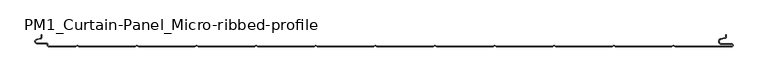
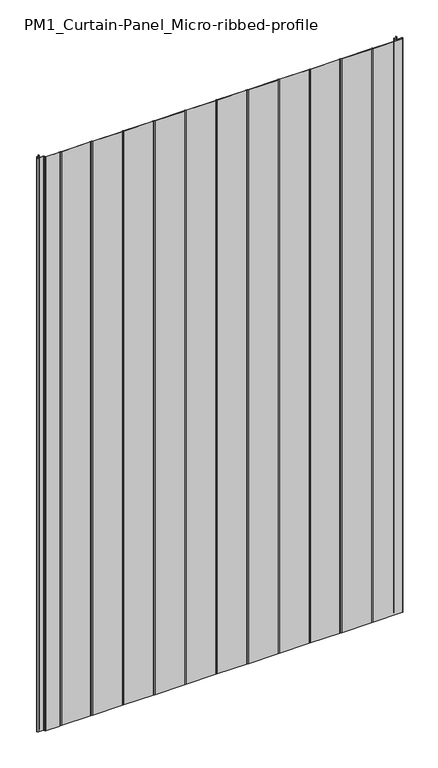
"""IFC4 building model written with IfcOpenShell, lengths in millimetres: plate geometry, PM1_Curtain-Panel_Micro-ribbed-profile : ACH_PM1_Acoustic-Sectioning-Panel_80M."""

from ifc_helpers import new_model, si_unit, frame, origin, place, context, project, spatial, polyline, circle_curve, source, transform, mapped, element, save
from ifc_brep_helpers import plane_surface, cylinder_surface, revolved_surface, advanced_brep


def pm1_curtain_panel_micro_ribbed_profile_46b46948(model_context):
    return source(origin(), model_context, "Body", "AdvancedBrep", [
        advanced_brep(
        [(-575.0, -64.121443, 1945.7507136), (-576.5500978, -66.0701831, 1945.7507136), (-582.7098239, -67.492268, 1945.7507136), (-581.9, -74.6, 1945.7507136), (-566.4, -74.6, 1945.7507136), (-564.4, -76.6, 1945.7507136), (-564.4, -78.0, 1945.7507136), (-562.4, -80.0, 1945.7507136), (-517.0999995, -80.0, 1945.7507136), (-514.4, -78.4411545, 1945.7507136), (-511.7000005, -80.0, 1945.7507136), (-417.0999995, -80.0, 1945.7507136), (-414.4, -78.4411545, 1945.7507136), (-411.7000005, -80.0, 1945.7507136), (-317.0999995, -80.0, 1945.7507136), (-314.4, -78.4411545, 1945.7507136), (-311.7000005, -80.0, 1945.7507136), (-217.0999995, -80.0, 1945.7507136), (-214.4, -78.4411545, 1945.7507136), (-211.7000005, -80.0, 1945.7507136), (-117.0999995, -80.0, 1945.7507136), (-114.4, -78.4411545, 1945.7507136), (-111.7000005, -80.0, 1945.7507136), (-17.0999995, -80.0, 1945.7507136), (-14.4, -78.4411545, 1945.7507136), (-11.7000005, -80.0, 1945.7507136), (82.9000005, -80.0, 1945.7507136), (85.6, -78.4411545, 1945.7507136), (88.2999995, -80.0, 1945.7507136), (182.9000005, -80.0, 1945.7507136), (185.6, -78.4411545, 1945.7507136), (188.2999995, -80.0, 1945.7507136), (282.9000005, -80.0, 1945.7507136), (285.6, -78.4411545, 1945.7507136), (288.2999995, -80.0, 1945.7507136), (382.9000005, -80.0, 1945.7507136), (385.6, -78.4411545, 1945.7507136), (388.2999995, -80.0, 1945.7507136), (482.9000005, -80.0, 1945.7507136), (485.6, -78.4411545, 1945.7507136), (488.2999995, -80.0, 1945.7507136), (583.1, -80.0, 1945.7507136), (585.6, -77.5, 1945.7507136), (583.1, -75.0, 1945.7507136), (566.1, -75.0, 1945.7507136), (565.405407, -67.060769, 1945.7507136), (571.8514855, -65.9241509, 1945.7507136), (574.0, -63.3636508, 1945.7507136), (574.0, -60.0, 1945.7507136), (573.2, -60.0, 1945.7507136), (573.2, -63.3636508, 1945.7507136), (571.7125669, -65.1363047, 1945.7507136), (565.2664884, -66.2729228, 1945.7507136), (566.1, -75.8, 1945.7507136), (583.1, -75.8, 1945.7507136), (583.1, -79.2, 1945.7507136), (488.5143588, -79.2, 1945.7507136), (485.6, -77.517394, 1945.7507136), (482.6856412, -79.2, 1945.7507136), (388.5143588, -79.2, 1945.7507136), (385.6, -77.517394, 1945.7507136), (382.6856412, -79.2, 1945.7507136), (288.5143588, -79.2, 1945.7507136), (285.6, -77.517394, 1945.7507136), (282.6856412, -79.2, 1945.7507136), (188.5143588, -79.2, 1945.7507136), (185.6, -77.517394, 1945.7507136), (182.6856412, -79.2, 1945.7507136), (88.5143588, -79.2, 1945.7507136), (85.6, -77.517394, 1945.7507136), (82.6856412, -79.2, 1945.7507136), (-11.4856412, -79.2, 1945.7507136), (-14.4, -77.517394, 1945.7507136), (-17.3143588, -79.2, 1945.7507136), (-111.4856412, -79.2, 1945.7507136), (-114.4, -77.517394, 1945.7507136), (-117.3143588, -79.2, 1945.7507136), (-211.4856412, -79.2, 1945.7507136), (-214.4, -77.517394, 1945.7507136), (-217.3143588, -79.2, 1945.7507136), (-311.4856412, -79.2, 1945.7507136), (-314.4, -77.517394, 1945.7507136), (-317.3143588, -79.2, 1945.7507136), (-411.4856412, -79.2, 1945.7507136), (-414.4, -77.517394, 1945.7507136), (-417.3143588, -79.2, 1945.7507136), (-511.4856412, -79.2, 1945.7507136), (-514.4, -77.517394, 1945.7507136), (-517.3143588, -79.2, 1945.7507136), (-562.4, -79.2, 1945.7507136), (-563.6, -78.0, 1945.7507136), (-563.6, -76.6, 1945.7507136), (-566.4, -73.8, 1945.7507136), (-581.9, -73.8, 1945.7507136), (-582.529863, -68.2717638, 1945.7507136), (-576.370137, -66.849679, 1945.7507136), (-574.2, -64.121443, 1945.7507136), (-574.2, -60.0, 1945.7507136), (-575.0, -60.0, 1945.7507136), (-575.0, -64.121443, 0.0), (-575.0, -60.0, 0.0), (-574.2, -60.0, 0.0), (-574.2, -64.121443, 0.0), (-576.370137, -66.8496792, 0.0), (-582.529863, -68.271764, 0.0), (-581.9, -73.8, 0.0), (-566.4, -73.8, 0.0), (-563.6, -76.6, 0.0), (-563.6, -78.0, 0.0), (-562.4, -79.2, 0.0), (-517.3143588, -79.2, 0.0), (-514.4, -77.517394, 0.0), (-511.4856412, -79.2, 0.0), (-417.3143588, -79.2, 0.0), (-414.4, -77.517394, 0.0), (-411.4856412, -79.2, 0.0), (-317.3143588, -79.2, 0.0), (-314.4, -77.517394, 0.0), (-311.4856412, -79.2, 0.0), (-217.3143588, -79.2, 0.0), (-214.4, -77.517394, 0.0), (-211.4856412, -79.2, 0.0), (-117.3143588, -79.2, 0.0), (-114.4, -77.517394, 0.0), (-111.4856412, -79.2, 0.0), (-17.3143588, -79.2, 0.0), (-14.4, -77.517394, 0.0), (-11.4856412, -79.2, 0.0), (82.6856412, -79.2, 0.0), (85.6, -77.517394, 0.0), (88.5143588, -79.2, 0.0), (182.6856412, -79.2, 0.0), (185.6, -77.517394, 0.0), (188.5143588, -79.2, 0.0), (282.6856412, -79.2, 0.0), (285.6, -77.517394, 0.0), (288.5143588, -79.2, 0.0), (382.6856412, -79.2, 0.0), (385.6, -77.517394, 0.0), (388.5143588, -79.2, 0.0), (482.6856412, -79.2, 0.0), (485.6, -77.517394, 0.0), (488.5143588, -79.2, 0.0), (583.1, -79.2, 0.0), (583.1, -75.8, 0.0), (566.1, -75.8, 0.0), (565.2664884, -66.2729229, 0.0), (571.7125669, -65.1363047, 0.0), (573.2, -63.3636508, 0.0), (573.2, -60.0, 0.0), (574.0, -60.0, 0.0), (574.0, -63.3636508, 0.0), (571.8514855, -65.9241509, 0.0), (565.405407, -67.060769, 0.0), (566.1, -75.0, 0.0), (583.1, -75.0, 0.0), (585.6, -77.5, 0.0), (583.1, -80.0, 0.0), (488.2999995, -80.0, 0.0), (485.6, -78.4411545, 0.0), (482.9000005, -80.0, 0.0), (388.2999995, -80.0, 0.0), (385.6, -78.4411545, 0.0), (382.9000005, -80.0, 0.0), (288.2999995, -80.0, 0.0), (285.6, -78.4411545, 0.0), (282.9000005, -80.0, 0.0), (188.2999995, -80.0, 0.0), (185.6, -78.4411545, 0.0), (182.9000005, -80.0, 0.0), (88.2999995, -80.0, 0.0), (85.6, -78.4411545, 0.0), (82.9000005, -80.0, 0.0), (-11.7000005, -80.0, 0.0), (-14.4, -78.4411545, 0.0), (-17.0999995, -80.0, 0.0), (-111.7000005, -80.0, 0.0), (-114.4, -78.4411545, 0.0), (-117.0999995, -80.0, 0.0), (-211.7000005, -80.0, 0.0), (-214.4, -78.4411545, 0.0), (-217.0999995, -80.0, 0.0), (-311.7000005, -80.0, 0.0), (-314.4, -78.4411545, 0.0), (-317.0999995, -80.0, 0.0), (-411.7000005, -80.0, 0.0), (-414.4, -78.4411545, 0.0), (-417.0999995, -80.0, 0.0), (-511.7000005, -80.0, 0.0), (-514.4, -78.4411545, 0.0), (-517.0999995, -80.0, 0.0), (-562.4, -80.0, 0.0), (-564.4, -78.0, 0.0), (-564.4, -76.6, 0.0), (-566.4, -74.6, 0.0), (-581.9, -74.6, 0.0), (-582.7098239, -67.4922678, 0.0), (-576.5500979, -66.070183, 0.0)],
        [
            (0, 1, circle_curve(frame((-577.0, -64.121443, 1945.7507136), z_axis=(0.0, 0.0, -1.0), x_axis=(1.0, 0.0, 0.0)), 2.0)),
            (1, 2),
            (2, 3, circle_curve(frame((-581.9, -71.0, 1945.7507136), z_axis=(0.0, 0.0, 1.0), x_axis=(1.0, 0.0, 0.0)), 3.6)),
            (3, 4),
            (4, 5, circle_curve(frame((-566.4, -76.6, 1945.7507136), z_axis=(0.0, 0.0, -1.0), x_axis=(1.0, 0.0, 0.0)), 2.0)),
            (5, 6),
            (6, 7, circle_curve(frame((-562.4, -78.0, 1945.7507136), z_axis=(0.0, 0.0, 1.0), x_axis=(1.0, 0.0, 0.0)), 2.0)),
            (7, 8),
            (8, 9),
            (9, 10),
            (10, 11),
            (11, 12),
            (12, 13),
            (13, 14),
            (14, 15),
            (15, 16),
            (16, 17),
            (17, 18),
            (18, 19),
            (19, 20),
            (20, 21),
            (21, 22),
            (22, 23),
            (23, 24),
            (24, 25),
            (25, 26),
            (26, 27),
            (27, 28),
            (28, 29),
            (29, 30),
            (30, 31),
            (31, 32),
            (32, 33),
            (33, 34),
            (34, 35),
            (35, 36),
            (36, 37),
            (37, 38),
            (38, 39),
            (39, 40),
            (40, 41),
            (41, 42, circle_curve(frame((583.1, -77.5, 1945.7507136), z_axis=(0.0, 0.0, 1.0), x_axis=(1.0, 0.0, 0.0)), 2.5)),
            (42, 43, circle_curve(frame((583.1, -77.5, 1945.7507136), z_axis=(0.0, 0.0, 1.0), x_axis=(1.0, 0.0, 0.0)), 2.5)),
            (43, 44),
            (44, 45, circle_curve(frame((566.1, -71.0, 1945.7507136), z_axis=(0.0, 0.0, -1.0), x_axis=(1.0, 0.0, 0.0)), 4.0)),
            (45, 46),
            (46, 47, circle_curve(frame((571.4, -63.3636508, 1945.7507136), z_axis=(0.0, 0.0, 1.0), x_axis=(1.0, 0.0, 0.0)), 2.6)),
            (47, 48),
            (48, 49),
            (49, 50),
            (50, 51, circle_curve(frame((571.4, -63.3636508, 1945.7507136), z_axis=(0.0, 0.0, -1.0), x_axis=(1.0, 0.0, 0.0)), 1.8)),
            (51, 52),
            (52, 53, circle_curve(frame((566.1, -71.0, 1945.7507136), z_axis=(0.0, 0.0, 1.0), x_axis=(1.0, 0.0, 0.0)), 4.8)),
            (53, 54),
            (54, 55, circle_curve(frame((583.1, -77.5, 1945.7507136), z_axis=(0.0, 0.0, -1.0), x_axis=(1.0, 0.0, 0.0)), 1.7)),
            (55, 56),
            (56, 57),
            (57, 58),
            (58, 59),
            (59, 60),
            (60, 61),
            (61, 62),
            (62, 63),
            (63, 64),
            (64, 65),
            (65, 66),
            (66, 67),
            (67, 68),
            (68, 69),
            (69, 70),
            (70, 71),
            (71, 72),
            (72, 73),
            (73, 74),
            (74, 75),
            (75, 76),
            (76, 77),
            (77, 78),
            (78, 79),
            (79, 80),
            (80, 81),
            (81, 82),
            (82, 83),
            (83, 84),
            (84, 85),
            (85, 86),
            (86, 87),
            (87, 88),
            (88, 89),
            (89, 90, circle_curve(frame((-562.4, -78.0, 1945.7507136), z_axis=(0.0, 0.0, -1.0), x_axis=(1.0, 0.0, 0.0)), 1.2)),
            (90, 91),
            (91, 92, circle_curve(frame((-566.4, -76.6, 1945.7507136), z_axis=(0.0, 0.0, 1.0), x_axis=(1.0, 0.0, 0.0)), 2.8)),
            (92, 93),
            (93, 94, circle_curve(frame((-581.9, -71.0, 1945.7507136), z_axis=(0.0, 0.0, -1.0), x_axis=(1.0, 0.0, 0.0)), 2.8)),
            (94, 95),
            (95, 96, circle_curve(frame((-577.0, -64.121443, 1945.7507136), z_axis=(0.0, 0.0, 1.0), x_axis=(1.0, 0.0, 0.0)), 2.8)),
            (96, 97),
            (97, 98),
            (98, 0),
            (99, 100),
            (100, 101),
            (101, 102),
            (102, 103, circle_curve(frame((-577.0, -64.121443, 0.0), z_axis=(0.0, 0.0, -1.0), x_axis=(1.0, 0.0, 0.0)), 2.8)),
            (103, 104),
            (104, 105, circle_curve(frame((-581.9, -71.0, 0.0), z_axis=(0.0, 0.0, 1.0), x_axis=(1.0, 0.0, 0.0)), 2.8)),
            (105, 106),
            (106, 107, circle_curve(frame((-566.4, -76.6, 0.0), z_axis=(0.0, 0.0, -1.0), x_axis=(1.0, 0.0, 0.0)), 2.8)),
            (107, 108),
            (108, 109, circle_curve(frame((-562.4, -78.0, 0.0), z_axis=(0.0, 0.0, 1.0), x_axis=(1.0, 0.0, 0.0)), 1.2)),
            (109, 110),
            (110, 111),
            (111, 112),
            (112, 113),
            (113, 114),
            (114, 115),
            (115, 116),
            (116, 117),
            (117, 118),
            (118, 119),
            (119, 120),
            (120, 121),
            (121, 122),
            (122, 123),
            (123, 124),
            (124, 125),
            (125, 126),
            (126, 127),
            (127, 128),
            (128, 129),
            (129, 130),
            (130, 131),
            (131, 132),
            (132, 133),
            (133, 134),
            (134, 135),
            (135, 136),
            (136, 137),
            (137, 138),
            (138, 139),
            (139, 140),
            (140, 141),
            (141, 142),
            (142, 143),
            (143, 144, circle_curve(frame((583.1, -77.5, 0.0), z_axis=(0.0, 0.0, 1.0), x_axis=(1.0, 0.0, 0.0)), 1.7)),
            (144, 145),
            (145, 146, circle_curve(frame((566.1, -71.0, 0.0), z_axis=(0.0, 0.0, -1.0), x_axis=(1.0, 0.0, 0.0)), 4.8)),
            (146, 147),
            (147, 148, circle_curve(frame((571.4, -63.3636508, 0.0), z_axis=(0.0, 0.0, 1.0), x_axis=(1.0, 0.0, 0.0)), 1.8)),
            (148, 149),
            (149, 150),
            (150, 151),
            (151, 152, circle_curve(frame((571.4, -63.3636508, 0.0), z_axis=(0.0, 0.0, -1.0), x_axis=(1.0, 0.0, 0.0)), 2.6)),
            (152, 153),
            (153, 154, circle_curve(frame((566.1, -71.0, 0.0), z_axis=(0.0, 0.0, 1.0), x_axis=(1.0, 0.0, 0.0)), 4.0)),
            (154, 155),
            (155, 156, circle_curve(frame((583.1, -77.5, 0.0), z_axis=(0.0, 0.0, -1.0), x_axis=(1.0, 0.0, 0.0)), 2.5)),
            (156, 157, circle_curve(frame((583.1, -77.5, 0.0), z_axis=(0.0, 0.0, -1.0), x_axis=(1.0, 0.0, 0.0)), 2.5)),
            (157, 158),
            (158, 159),
            (159, 160),
            (160, 161),
            (161, 162),
            (162, 163),
            (163, 164),
            (164, 165),
            (165, 166),
            (166, 167),
            (167, 168),
            (168, 169),
            (169, 170),
            (170, 171),
            (171, 172),
            (172, 173),
            (173, 174),
            (174, 175),
            (175, 176),
            (176, 177),
            (177, 178),
            (178, 179),
            (179, 180),
            (180, 181),
            (181, 182),
            (182, 183),
            (183, 184),
            (184, 185),
            (185, 186),
            (186, 187),
            (187, 188),
            (188, 189),
            (189, 190),
            (190, 191),
            (191, 192, circle_curve(frame((-562.4, -78.0, 0.0), z_axis=(0.0, 0.0, -1.0), x_axis=(1.0, 0.0, 0.0)), 2.0)),
            (192, 193),
            (193, 194, circle_curve(frame((-566.4, -76.6, 0.0), z_axis=(0.0, 0.0, 1.0), x_axis=(1.0, 0.0, 0.0)), 2.0)),
            (194, 195),
            (195, 196, circle_curve(frame((-581.9, -71.0, 0.0), z_axis=(0.0, 0.0, -1.0), x_axis=(1.0, 0.0, 0.0)), 3.6)),
            (196, 197),
            (197, 99, circle_curve(frame((-577.0, -64.121443, 0.0), z_axis=(0.0, 0.0, 1.0), x_axis=(1.0, 0.0, 0.0)), 2.0)),
            (0, 99),
            (197, 1),
            (196, 2),
            (195, 3),
            (194, 4),
            (193, 5),
            (192, 6),
            (191, 7),
            (190, 8),
            (189, 9),
            (188, 10),
            (187, 11),
            (186, 12),
            (185, 13),
            (184, 14),
            (183, 15),
            (182, 16),
            (181, 17),
            (180, 18),
            (179, 19),
            (178, 20),
            (177, 21),
            (176, 22),
            (175, 23),
            (174, 24),
            (173, 25),
            (172, 26),
            (171, 27),
            (170, 28),
            (169, 29),
            (168, 30),
            (167, 31),
            (166, 32),
            (165, 33),
            (164, 34),
            (163, 35),
            (162, 36),
            (161, 37),
            (160, 38),
            (159, 39),
            (158, 40),
            (157, 41),
            (155, 43),
            (154, 44),
            (153, 45),
            (152, 46),
            (151, 47),
            (150, 48),
            (149, 49),
            (148, 50),
            (147, 51),
            (146, 52),
            (145, 53),
            (144, 54),
            (143, 55),
            (142, 56),
            (141, 57),
            (140, 58),
            (139, 59),
            (138, 60),
            (137, 61),
            (136, 62),
            (135, 63),
            (134, 64),
            (133, 65),
            (132, 66),
            (131, 67),
            (130, 68),
            (129, 69),
            (128, 70),
            (127, 71),
            (126, 72),
            (125, 73),
            (124, 74),
            (123, 75),
            (122, 76),
            (121, 77),
            (120, 78),
            (119, 79),
            (118, 80),
            (117, 81),
            (116, 82),
            (115, 83),
            (114, 84),
            (113, 85),
            (112, 86),
            (111, 87),
            (110, 88),
            (109, 89),
            (108, 90),
            (107, 91),
            (106, 92),
            (105, 93),
            (104, 94),
            (103, 95),
            (102, 96),
            (101, 97),
            (100, 98),
        ],
        [
            plane_surface(frame((-575.0, -80.0, 1945.7507136), z_axis=(0.0, 0.0, 1.0), x_axis=(0.0, 1.0, 0.0))),
            plane_surface(frame((-575.0, -80.0, 0.0), z_axis=(0.0, 0.0, -1.0), x_axis=(0.0, 1.0, 0.0))),
            revolved_surface(polyline([(-575.0, -64.121443, 0.0), (-575.0, -64.121443, 1945.7507136)]), (-577.0, -64.121443, 1945.7507136), (0.0, 0.0, -1.0)),
            plane_surface(frame((-576.5500979, -66.070183, 1945.7507136), z_axis=(-0.22495108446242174, 0.9743700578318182, 0.0), x_axis=(0.0, 0.0, -1.0))),
            cylinder_surface(frame((-581.9, -71.0, 1945.7507136), z_axis=(0.0, 0.0, 1.0), x_axis=(1.0, 0.0, 0.0)), 3.6),
            plane_surface(frame((-581.9, -74.6, 1945.7507136), z_axis=(0.0, -1.0, 0.0), x_axis=(0.0, 0.0, -1.0))),
            revolved_surface(polyline([(-564.4, -76.6, 0.0), (-564.4, -76.6, 1945.7507136)]), (-566.4, -76.6, 1945.7507136), (0.0, 0.0, -1.0)),
            plane_surface(frame((-564.4, -76.6, 1945.7507136), z_axis=(-1.0, 0.0, 0.0), x_axis=(0.0, 0.0, -1.0))),
            cylinder_surface(frame((-562.4, -78.0, 1945.7507136), z_axis=(0.0, 0.0, 1.0), x_axis=(1.0, 0.0, 0.0)), 2.0),
            plane_surface(frame((-562.4, -80.0, 1945.7507136), z_axis=(0.0, -1.0, 0.0), x_axis=(0.0, 0.0, -1.0))),
            plane_surface(frame((-517.0999995, -80.0, 1945.7507136), z_axis=(0.5000000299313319, -0.8660253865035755, 0.0), x_axis=(0.0, 0.0, -1.0))),
            plane_surface(frame((-514.4, -78.4411545, 1945.7507136), z_axis=(-0.5000000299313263, -0.8660253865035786, 0.0), x_axis=(0.0, 0.0, -1.0))),
            plane_surface(frame((-511.7000005, -80.0, 1945.7507136), z_axis=(0.0, -1.0, 0.0), x_axis=(0.0, 0.0, -1.0))),
            plane_surface(frame((-417.0999995, -80.0, 1945.7507136), z_axis=(0.5000000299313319, -0.8660253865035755, 0.0), x_axis=(0.0, 0.0, -1.0))),
            plane_surface(frame((-414.4, -78.4411545, 1945.7507136), z_axis=(-0.5000000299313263, -0.8660253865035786, 0.0), x_axis=(0.0, 0.0, -1.0))),
            plane_surface(frame((-411.7000005, -80.0, 1945.7507136), z_axis=(0.0, -1.0, 0.0), x_axis=(0.0, 0.0, -1.0))),
            plane_surface(frame((-317.0999995, -80.0, 1945.7507136), z_axis=(0.5000000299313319, -0.8660253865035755, 0.0), x_axis=(0.0, 0.0, -1.0))),
            plane_surface(frame((-314.4, -78.4411545, 1945.7507136), z_axis=(-0.5000000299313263, -0.8660253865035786, 0.0), x_axis=(0.0, 0.0, -1.0))),
            plane_surface(frame((-311.7000005, -80.0, 1945.7507136), z_axis=(0.0, -1.0, 0.0), x_axis=(0.0, 0.0, -1.0))),
            plane_surface(frame((-217.0999995, -80.0, 1945.7507136), z_axis=(0.5000000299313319, -0.8660253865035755, 0.0), x_axis=(0.0, 0.0, -1.0))),
            plane_surface(frame((-214.4, -78.4411545, 1945.7507136), z_axis=(-0.5000000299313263, -0.8660253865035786, 0.0), x_axis=(0.0, 0.0, -1.0))),
            plane_surface(frame((-211.7000005, -80.0, 1945.7507136), z_axis=(0.0, -1.0, 0.0), x_axis=(0.0, 0.0, -1.0))),
            plane_surface(frame((-117.0999995, -80.0, 1945.7507136), z_axis=(0.5000000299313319, -0.8660253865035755, 0.0), x_axis=(0.0, 0.0, -1.0))),
            plane_surface(frame((-114.4, -78.4411545, 1945.7507136), z_axis=(-0.5000000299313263, -0.8660253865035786, 0.0), x_axis=(0.0, 0.0, -1.0))),
            plane_surface(frame((-111.7000005, -80.0, 1945.7507136), z_axis=(0.0, -1.0, 0.0), x_axis=(0.0, 0.0, -1.0))),
            plane_surface(frame((-17.0999995, -80.0, 1945.7507136), z_axis=(0.5000000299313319, -0.8660253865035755, 0.0), x_axis=(0.0, 0.0, -1.0))),
            plane_surface(frame((-14.4, -78.4411545, 1945.7507136), z_axis=(-0.5000000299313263, -0.8660253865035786, 0.0), x_axis=(0.0, 0.0, -1.0))),
            plane_surface(frame((-11.7000005, -80.0, 1945.7507136), z_axis=(0.0, -1.0, 0.0), x_axis=(0.0, 0.0, -1.0))),
            plane_surface(frame((82.9000005, -80.0, 1945.7507136), z_axis=(0.5000000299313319, -0.8660253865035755, 0.0), x_axis=(0.0, 0.0, -1.0))),
            plane_surface(frame((85.6, -78.4411545, 1945.7507136), z_axis=(-0.5000000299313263, -0.8660253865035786, 0.0), x_axis=(0.0, 0.0, -1.0))),
            plane_surface(frame((88.2999995, -80.0, 1945.7507136), z_axis=(0.0, -1.0, 0.0), x_axis=(0.0, 0.0, -1.0))),
            plane_surface(frame((182.9000005, -80.0, 1945.7507136), z_axis=(0.5000000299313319, -0.8660253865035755, 0.0), x_axis=(0.0, 0.0, -1.0))),
            plane_surface(frame((185.6, -78.4411545, 1945.7507136), z_axis=(-0.5000000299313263, -0.8660253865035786, 0.0), x_axis=(0.0, 0.0, -1.0))),
            plane_surface(frame((188.2999995, -80.0, 1945.7507136), z_axis=(0.0, -1.0, 0.0), x_axis=(0.0, 0.0, -1.0))),
            plane_surface(frame((282.9000005, -80.0, 1945.7507136), z_axis=(0.5000000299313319, -0.8660253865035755, 0.0), x_axis=(0.0, 0.0, -1.0))),
            plane_surface(frame((285.6, -78.4411545, 1945.7507136), z_axis=(-0.5000000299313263, -0.8660253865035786, 0.0), x_axis=(0.0, 0.0, -1.0))),
            plane_surface(frame((288.2999995, -80.0, 1945.7507136), z_axis=(0.0, -1.0, 0.0), x_axis=(0.0, 0.0, -1.0))),
            plane_surface(frame((382.9000005, -80.0, 1945.7507136), z_axis=(0.5000000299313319, -0.8660253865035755, 0.0), x_axis=(0.0, 0.0, -1.0))),
            plane_surface(frame((385.6, -78.4411545, 1945.7507136), z_axis=(-0.5000000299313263, -0.8660253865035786, 0.0), x_axis=(0.0, 0.0, -1.0))),
            plane_surface(frame((388.2999995, -80.0, 1945.7507136), z_axis=(0.0, -1.0, 0.0), x_axis=(0.0, 0.0, -1.0))),
            plane_surface(frame((482.9000005, -80.0, 1945.7507136), z_axis=(0.5000000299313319, -0.8660253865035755, 0.0), x_axis=(0.0, 0.0, -1.0))),
            plane_surface(frame((485.6, -78.4411545, 1945.7507136), z_axis=(-0.5000000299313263, -0.8660253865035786, 0.0), x_axis=(0.0, 0.0, -1.0))),
            plane_surface(frame((535.6, -80.0, 1945.7507136), z_axis=(0.0, -1.0, 0.0), x_axis=(0.0, 0.0, -1.0))),
            cylinder_surface(frame((583.1, -77.5, 1945.7507136), z_axis=(0.0, 0.0, 1.0), x_axis=(1.0, 0.0, 0.0)), 2.5),
            plane_surface(frame((583.1, -75.0, 1945.7507136), z_axis=(0.0, 1.0, 0.0), x_axis=(0.0, 0.0, -1.0))),
            revolved_surface(polyline([(570.1, -71.0, 0.0), (570.1, -71.0, 1945.7507136)]), (566.1, -71.0, 1945.7507136), (0.0, 0.0, -1.0)),
            plane_surface(frame((565.405407, -67.060769, 1945.7507136), z_axis=(0.17364825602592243, -0.9848077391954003, 0.0), x_axis=(0.0, 0.0, -1.0))),
            cylinder_surface(frame((571.4, -63.3636508, 1945.7507136), z_axis=(0.0, 0.0, 1.0), x_axis=(1.0, 0.0, 0.0)), 2.6),
            plane_surface(frame((574.0, -63.3636508, 1945.7507136), z_axis=(1.0, 0.0, 0.0), x_axis=(0.0, 0.0, -1.0))),
            plane_surface(frame((574.0, -60.0, 1945.7507136), z_axis=(0.0, 1.0, 0.0), x_axis=(0.0, 0.0, -1.0))),
            plane_surface(frame((573.2, -60.0, 1945.7507136), z_axis=(-1.0, 0.0, 0.0), x_axis=(0.0, 0.0, -1.0))),
            revolved_surface(polyline([(573.1999999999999, -63.3636508, 0.0), (573.1999999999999, -63.3636508, 1945.7507136)]), (571.4, -63.3636508, 1945.7507136), (0.0, 0.0, -1.0)),
            plane_surface(frame((571.7125669, -65.1363047, 1945.7507136), z_axis=(-0.17364825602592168, 0.9848077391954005, 0.0), x_axis=(0.0, 0.0, -1.0))),
            cylinder_surface(frame((566.1, -71.0, 1945.7507136), z_axis=(0.0, 0.0, 1.0), x_axis=(1.0, 0.0, 0.0)), 4.8),
            plane_surface(frame((566.1, -75.8, 1945.7507136), z_axis=(0.0, -1.0, 0.0), x_axis=(0.0, 0.0, -1.0))),
            revolved_surface(polyline([(584.8000000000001, -77.5, 0.0), (584.8000000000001, -77.5, 1945.7507136)]), (583.1, -77.5, 1945.7507136), (0.0, 0.0, -1.0)),
            plane_surface(frame((535.6, -79.2, 1945.7507136), z_axis=(0.0, 1.0, 0.0), x_axis=(0.0, 0.0, -1.0))),
            plane_surface(frame((488.5143588, -79.2, 1945.7507136), z_axis=(0.5000000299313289, 0.8660253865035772, 0.0), x_axis=(0.0, 0.0, -1.0))),
            plane_surface(frame((485.6, -77.517394, 1945.7507136), z_axis=(-0.5000000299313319, 0.8660253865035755, 0.0), x_axis=(0.0, 0.0, -1.0))),
            plane_surface(frame((482.6856412, -79.2, 1945.7507136), z_axis=(0.0, 1.0, 0.0), x_axis=(0.0, 0.0, -1.0))),
            plane_surface(frame((388.5143588, -79.2, 1945.7507136), z_axis=(0.5000000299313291, 0.8660253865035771, 0.0), x_axis=(0.0, 0.0, -1.0))),
            plane_surface(frame((385.6, -77.517394, 1945.7507136), z_axis=(-0.500000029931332, 0.8660253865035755, 0.0), x_axis=(0.0, 0.0, -1.0))),
            plane_surface(frame((382.6856412, -79.2, 1945.7507136), z_axis=(0.0, 1.0, 0.0), x_axis=(0.0, 0.0, -1.0))),
            plane_surface(frame((288.5143588, -79.2, 1945.7507136), z_axis=(0.5000000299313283, 0.8660253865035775, 0.0), x_axis=(0.0, 0.0, -1.0))),
            plane_surface(frame((285.6, -77.517394, 1945.7507136), z_axis=(-0.5000000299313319, 0.8660253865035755, 0.0), x_axis=(0.0, 0.0, -1.0))),
            plane_surface(frame((282.6856412, -79.2, 1945.7507136), z_axis=(0.0, 1.0, 0.0), x_axis=(0.0, 0.0, -1.0))),
            plane_surface(frame((188.5143588, -79.2, 1945.7507136), z_axis=(0.5000000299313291, 0.8660253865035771, 0.0), x_axis=(0.0, 0.0, -1.0))),
            plane_surface(frame((185.6, -77.517394, 1945.7507136), z_axis=(-0.5000000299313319, 0.8660253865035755, 0.0), x_axis=(0.0, 0.0, -1.0))),
            plane_surface(frame((182.6856412, -79.2, 1945.7507136), z_axis=(0.0, 1.0, 0.0), x_axis=(0.0, 0.0, -1.0))),
            plane_surface(frame((88.5143588, -79.2, 1945.7507136), z_axis=(0.5000000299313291, 0.8660253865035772, 0.0), x_axis=(0.0, 0.0, -1.0))),
            plane_surface(frame((85.6, -77.517394, 1945.7507136), z_axis=(-0.5000000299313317, 0.8660253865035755, 0.0), x_axis=(0.0, 0.0, -1.0))),
            plane_surface(frame((82.6856412, -79.2, 1945.7507136), z_axis=(0.0, 1.0, 0.0), x_axis=(0.0, 0.0, -1.0))),
            plane_surface(frame((-11.4856412, -79.2, 1945.7507136), z_axis=(0.500000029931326, 0.8660253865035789, 0.0), x_axis=(0.0, 0.0, -1.0))),
            plane_surface(frame((-14.4, -77.517394, 1945.7507136), z_axis=(-0.500000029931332, 0.8660253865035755, 0.0), x_axis=(0.0, 0.0, -1.0))),
            plane_surface(frame((-17.3143588, -79.2, 1945.7507136), z_axis=(0.0, 1.0, 0.0), x_axis=(0.0, 0.0, -1.0))),
            plane_surface(frame((-111.4856412, -79.2, 1945.7507136), z_axis=(0.5000000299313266, 0.8660253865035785, 0.0), x_axis=(0.0, 0.0, -1.0))),
            plane_surface(frame((-114.4, -77.517394, 1945.7507136), z_axis=(-0.5000000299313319, 0.8660253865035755, 0.0), x_axis=(0.0, 0.0, -1.0))),
            plane_surface(frame((-117.3143588, -79.2, 1945.7507136), z_axis=(0.0, 1.0, 0.0), x_axis=(0.0, 0.0, -1.0))),
            plane_surface(frame((-211.4856412, -79.2, 1945.7507136), z_axis=(0.5000000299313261, 0.8660253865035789, 0.0), x_axis=(0.0, 0.0, -1.0))),
            plane_surface(frame((-214.4, -77.517394, 1945.7507136), z_axis=(-0.500000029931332, 0.8660253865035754, 0.0), x_axis=(0.0, 0.0, -1.0))),
            plane_surface(frame((-217.3143588, -79.2, 1945.7507136), z_axis=(0.0, 1.0, 0.0), x_axis=(0.0, 0.0, -1.0))),
            plane_surface(frame((-311.4856412, -79.2, 1945.7507136), z_axis=(0.5000000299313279, 0.8660253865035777, 0.0), x_axis=(0.0, 0.0, -1.0))),
            plane_surface(frame((-314.4, -77.517394, 1945.7507136), z_axis=(-0.5000000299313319, 0.8660253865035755, 0.0), x_axis=(0.0, 0.0, -1.0))),
            plane_surface(frame((-317.3143588, -79.2, 1945.7507136), z_axis=(0.0, 1.0, 0.0), x_axis=(0.0, 0.0, -1.0))),
            plane_surface(frame((-411.4856412, -79.2, 1945.7507136), z_axis=(0.5000000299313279, 0.8660253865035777, 0.0), x_axis=(0.0, 0.0, -1.0))),
            plane_surface(frame((-414.4, -77.517394, 1945.7507136), z_axis=(-0.5000000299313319, 0.8660253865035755, 0.0), x_axis=(0.0, 0.0, -1.0))),
            plane_surface(frame((-417.3143588, -79.2, 1945.7507136), z_axis=(0.0, 1.0, 0.0), x_axis=(0.0, 0.0, -1.0))),
            plane_surface(frame((-511.4856412, -79.2, 1945.7507136), z_axis=(0.5000000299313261, 0.8660253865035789, 0.0), x_axis=(0.0, 0.0, -1.0))),
            plane_surface(frame((-514.4, -77.517394, 1945.7507136), z_axis=(-0.5000000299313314, 0.8660253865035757, 0.0), x_axis=(0.0, 0.0, -1.0))),
            plane_surface(frame((-517.3143588, -79.2, 1945.7507136), z_axis=(0.0, 1.0, 0.0), x_axis=(0.0, 0.0, -1.0))),
            revolved_surface(polyline([(-561.1999999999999, -78.0, 0.0), (-561.1999999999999, -78.0, 1945.7507136)]), (-562.4, -78.0, 1945.7507136), (0.0, 0.0, -1.0)),
            plane_surface(frame((-563.6, -78.0, 1945.7507136), z_axis=(1.0, 0.0, 0.0), x_axis=(0.0, 0.0, -1.0))),
            cylinder_surface(frame((-566.4, -76.6, 1945.7507136), z_axis=(0.0, 0.0, 1.0), x_axis=(1.0, 0.0, 0.0)), 2.8),
            plane_surface(frame((-566.4, -73.8, 1945.7507136), z_axis=(0.0, 1.0, 0.0), x_axis=(0.0, 0.0, -1.0))),
            revolved_surface(polyline([(-579.1, -71.0, 0.0), (-579.1, -71.0, 1945.7507136)]), (-581.9, -71.0, 1945.7507136), (0.0, 0.0, -1.0)),
            plane_surface(frame((-582.529863, -68.271764, 1945.7507136), z_axis=(0.22495108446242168, -0.9743700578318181, 0.0), x_axis=(0.0, 0.0, -1.0))),
            cylinder_surface(frame((-577.0, -64.121443, 1945.7507136), z_axis=(0.0, 0.0, 1.0), x_axis=(1.0, 0.0, 0.0)), 2.8),
            plane_surface(frame((-574.2, -64.121443, 1945.7507136), z_axis=(1.0, 0.0, 0.0), x_axis=(0.0, 0.0, -1.0))),
            plane_surface(frame((-574.2, -60.0, 1945.7507136), z_axis=(0.0, 1.0, 0.0), x_axis=(0.0, 0.0, -1.0))),
            plane_surface(frame((-575.0, -60.0, 1945.7507136), z_axis=(-1.0, 0.0, 0.0), x_axis=(0.0, 0.0, -1.0))),
        ],
        [
            (0, [[1, 2, 3, 4, 5, 6, 7, 8, 9, 10, 11, 12, 13, 14, 15, 16, 17, 18, 19, 20, 21, 22, 23, 24, 25, 26, 27, 28, 29, 30, 31, 32, 33, 34, 35, 36, 37, 38, 39, 40, 41, 42, 43, 44, 45, 46, 47, 48, 49, 50, 51, 52, 53, 54, 55, 56, 57, 58, 59, 60, 61, 62, 63, 64, 65, 66, 67, 68, 69, 70, 71, 72, 73, 74, 75, 76, 77, 78, 79, 80, 81, 82, 83, 84, 85, 86, 87, 88, 89, 90, 91, 92, 93, 94, 95, 96, 97, 98, 99]]),
            (1, [[100, 101, 102, 103, 104, 105, 106, 107, 108, 109, 110, 111, 112, 113, 114, 115, 116, 117, 118, 119, 120, 121, 122, 123, 124, 125, 126, 127, 128, 129, 130, 131, 132, 133, 134, 135, 136, 137, 138, 139, 140, 141, 142, 143, 144, 145, 146, 147, 148, 149, 150, 151, 152, 153, 154, 155, 156, 157, 158, 159, 160, 161, 162, 163, 164, 165, 166, 167, 168, 169, 170, 171, 172, 173, 174, 175, 176, 177, 178, 179, 180, 181, 182, 183, 184, 185, 186, 187, 188, 189, 190, 191, 192, 193, 194, 195, 196, 197, 198]]),
            (2, [[-1, 199, -198, 200]]),
            (3, [[-2, -200, -197, 201]]),
            (4, [[-3, -201, -196, 202]]),
            (5, [[-4, -202, -195, 203]]),
            (6, [[-5, -203, -194, 204]]),
            (7, [[-6, -204, -193, 205]]),
            (8, [[-7, -205, -192, 206]]),
            (9, [[-8, -206, -191, 207]]),
            (10, [[-9, -207, -190, 208]]),
            (11, [[-10, -208, -189, 209]]),
            (12, [[-11, -209, -188, 210]]),
            (13, [[-12, -210, -187, 211]]),
            (14, [[-13, -211, -186, 212]]),
            (15, [[-14, -212, -185, 213]]),
            (16, [[-15, -213, -184, 214]]),
            (17, [[-16, -214, -183, 215]]),
            (18, [[-17, -215, -182, 216]]),
            (19, [[-18, -216, -181, 217]]),
            (20, [[-19, -217, -180, 218]]),
            (21, [[-20, -218, -179, 219]]),
            (22, [[-21, -219, -178, 220]]),
            (23, [[-22, -220, -177, 221]]),
            (24, [[-23, -221, -176, 222]]),
            (25, [[-24, -222, -175, 223]]),
            (26, [[-25, -223, -174, 224]]),
            (27, [[-26, -224, -173, 225]]),
            (28, [[-27, -225, -172, 226]]),
            (29, [[-28, -226, -171, 227]]),
            (30, [[-29, -227, -170, 228]]),
            (31, [[-30, -228, -169, 229]]),
            (32, [[-31, -229, -168, 230]]),
            (33, [[-32, -230, -167, 231]]),
            (34, [[-33, -231, -166, 232]]),
            (35, [[-34, -232, -165, 233]]),
            (36, [[-35, -233, -164, 234]]),
            (37, [[-36, -234, -163, 235]]),
            (38, [[-37, -235, -162, 236]]),
            (39, [[-38, -236, -161, 237]]),
            (40, [[-39, -237, -160, 238]]),
            (41, [[-40, -238, -159, 239]]),
            (42, [[-41, -239, -158, 240]]),
            (43, [[-240, -157, -156, 241, -43, -42]]),
            (44, [[-44, -241, -155, 242]]),
            (45, [[-45, -242, -154, 243]]),
            (46, [[-46, -243, -153, 244]]),
            (47, [[-47, -244, -152, 245]]),
            (48, [[-48, -245, -151, 246]]),
            (49, [[-49, -246, -150, 247]]),
            (50, [[-50, -247, -149, 248]]),
            (51, [[-51, -248, -148, 249]]),
            (52, [[-52, -249, -147, 250]]),
            (53, [[-53, -250, -146, 251]]),
            (54, [[-54, -251, -145, 252]]),
            (55, [[-55, -252, -144, 253]]),
            (56, [[-56, -253, -143, 254]]),
            (57, [[-57, -254, -142, 255]]),
            (58, [[-58, -255, -141, 256]]),
            (59, [[-59, -256, -140, 257]]),
            (60, [[-60, -257, -139, 258]]),
            (61, [[-61, -258, -138, 259]]),
            (62, [[-62, -259, -137, 260]]),
            (63, [[-63, -260, -136, 261]]),
            (64, [[-64, -261, -135, 262]]),
            (65, [[-65, -262, -134, 263]]),
            (66, [[-66, -263, -133, 264]]),
            (67, [[-67, -264, -132, 265]]),
            (68, [[-68, -265, -131, 266]]),
            (69, [[-69, -266, -130, 267]]),
            (70, [[-70, -267, -129, 268]]),
            (71, [[-71, -268, -128, 269]]),
            (72, [[-72, -269, -127, 270]]),
            (73, [[-73, -270, -126, 271]]),
            (74, [[-74, -271, -125, 272]]),
            (75, [[-75, -272, -124, 273]]),
            (76, [[-76, -273, -123, 274]]),
            (77, [[-77, -274, -122, 275]]),
            (78, [[-78, -275, -121, 276]]),
            (79, [[-79, -276, -120, 277]]),
            (80, [[-80, -277, -119, 278]]),
            (81, [[-81, -278, -118, 279]]),
            (82, [[-82, -279, -117, 280]]),
            (83, [[-83, -280, -116, 281]]),
            (84, [[-84, -281, -115, 282]]),
            (85, [[-85, -282, -114, 283]]),
            (86, [[-86, -283, -113, 284]]),
            (87, [[-87, -284, -112, 285]]),
            (88, [[-88, -285, -111, 286]]),
            (89, [[-89, -286, -110, 287]]),
            (90, [[-90, -287, -109, 288]]),
            (91, [[-91, -288, -108, 289]]),
            (92, [[-92, -289, -107, 290]]),
            (93, [[-93, -290, -106, 291]]),
            (94, [[-94, -291, -105, 292]]),
            (95, [[-95, -292, -104, 293]]),
            (96, [[-96, -293, -103, 294]]),
            (97, [[-97, -294, -102, 295]]),
            (98, [[-98, -295, -101, 296]]),
            (99, [[-99, -296, -100, -199]]),
        ],
    ),
    ])


if __name__ == "__main__":
    model = new_model("IFC4")
    model_context = context("Model", 3, world=origin())
    ifc_project = project(units=[si_unit("LENGTHUNIT", "METRE", prefix="MILLI")], contexts=[model_context])
    site = spatial("IfcSite", under=ifc_project)
    building = spatial("IfcBuilding", under=site)
    placement = place(None, origin())
    pm1_curtain_panel_micro_ribbed_profile_shape = pm1_curtain_panel_micro_ribbed_profile_46b46948(model_context)
    element("IfcPlate", 1, ObjectType="PM1_Curtain-Panel_Micro-ribbed-profile : ACH_PM1_Acoustic-Sectioning-Panel_80M", at=placement, inside=building, context=model_context, shape_type="MappedRepresentation", body=[
        mapped(pm1_curtain_panel_micro_ribbed_profile_shape, transform((0.0, 0.0, 0.0), x_axis=(1.0, 0.0, 0.0), y_axis=(0.0, 1.0, 0.0), z_axis=(0.0, 0.0, 1.0))),
    ])
    save(model, "model.ifc")
